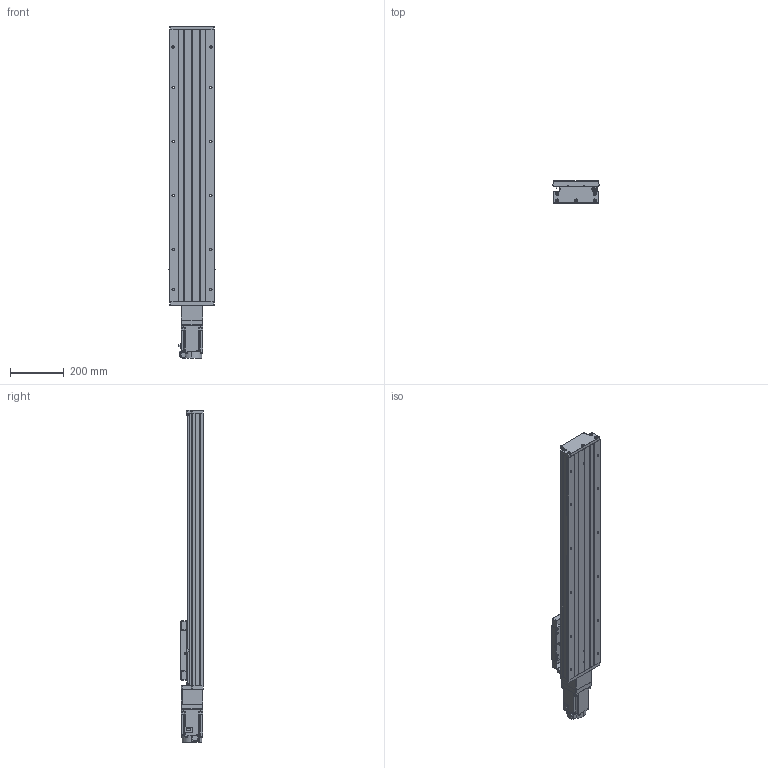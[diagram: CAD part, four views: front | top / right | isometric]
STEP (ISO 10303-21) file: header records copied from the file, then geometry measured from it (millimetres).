
FILE_DESCRIPTION (( 'STEP AP203' ), '1' );
FILE_NAME ('GTH17-750-BC-M75-C4.step', '2023-06-30T11:22:53', ( '微软用户' ), ( '微软中国' ), 'SwSTEP 2.0', 'SolidWorks 2020', '' );
FILE_SCHEMA (( 'CONFIG_CONTROL_DESIGN' ));
Length unit declared in the file: millimetre
Products named in the file (20): HG-KN73J-S100; CTHA60-017; GBT 70.2-M3¡Á5_M3¡Á6; GTH17-750-BC-M75-C4; EE_SX911P_R; す晦芛蹟隊 M3℅5; GTH17-001_750; CTHA60-016; GBT 70.3-M3℅8; GTH17-002_GTH17-002; GBT 70.1-M3℅5; GTH17-006-2_M75; GTH17-004; GBT77-2000 M3×3; GTH17-013; GTH17-005; GBT 70.1-M6¡Á20_M6¡Á20; GTH17-027-1; GB1155-6X6; GTH17-031
Assembly tree (57 placements, depth 2):
  GTH17-750-BC-M75-C4
    GTH17-001_750
    GTH17-002_GTH17-002
    GTH17-004
    GTH17-005
    GB1155-6X6  x2
    CTHA60-017  x3
    EE_SX911P_R  x3
    CTHA60-016  x2
    GBT 70.1-M3℅5  x6
    GBT77-2000 M3×3  x6
    GBT 70.1-M6¡Á20_M6¡Á20  x10
    GTH17-031
    GBT 70.2-M3¡Á5_M3¡Á6  x8
    す晦芛蹟隊 M3℅5  x6
    GBT 70.3-M3℅8  x2
    GTH17-006-2_M75
    GTH17-013
    GTH17-027-1
    HG-KN73J-S100
Bounding box: 171 x 87 x 1231.2 mm (x, y, z)
Volume: 9285425.3 mm3; surface area: 1200350.9 mm2
Topology: 60 solids, 60 shells, 2414 faces, 5773 edges, 3579 vertices
Faces by surface type: plane 1305, cylinder 662, cone 287, torus 120, sphere 20, bspline 20
Entity records: 45145 total; most frequent: CARTESIAN_POINT 10427, DIRECTION 6537, ORIENTED_EDGE 6462, EDGE_CURVE 3231, AXIS2_PLACEMENT_3D 2223, VECTOR 2091, LINE 2091, VERTEX_POINT 2047
